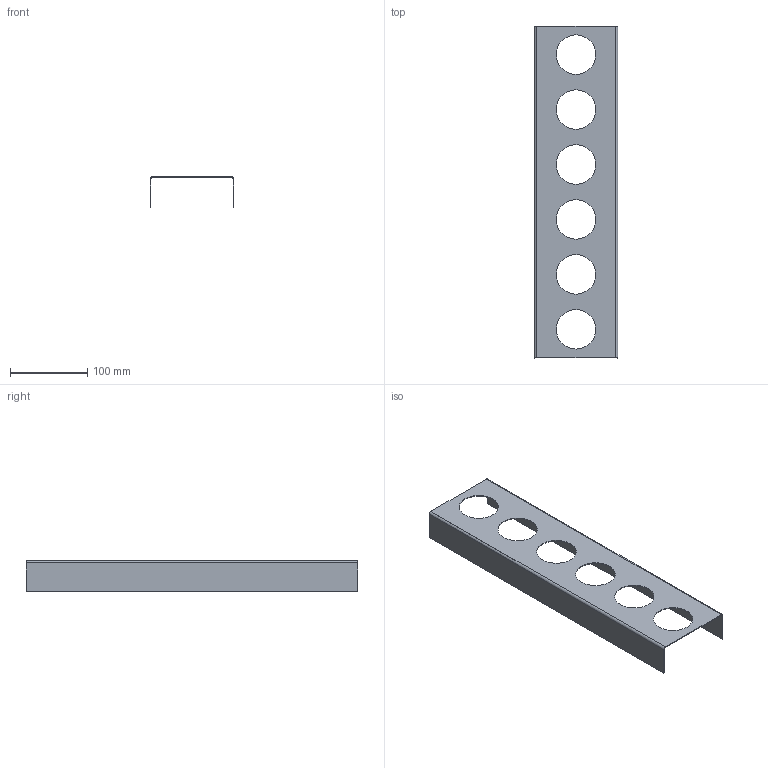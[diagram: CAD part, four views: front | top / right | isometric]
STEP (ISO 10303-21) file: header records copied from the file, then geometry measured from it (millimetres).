
FILE_DESCRIPTION (( 'STEP AP214' ), '1' );
FILE_NAME ('Gewuerzeinsatz_68312-01.STEP', '2010-10-25T13:28:36', ( 'grass' ), ( '' ), 'SwSTEP 2.0', 'SolidWorks 2010', '' );
FILE_SCHEMA (( 'AUTOMOTIVE_DESIGN' ));
Length unit declared in the file: millimetre
Products named in the file (1): Gewuerzeinsatz_68312-01
Bounding box: 108 x 429 x 40 mm (x, y, z)
Volume: 66616.4 mm3; surface area: 135419.9 mm2
Topology: 1 solids, 1 shells, 26 faces, 72 edges, 48 vertices
Faces by surface type: cylinder 16, plane 10
Entity records: 906 total; most frequent: DIRECTION 158, CARTESIAN_POINT 147, ORIENTED_EDGE 144, EDGE_CURVE 72, AXIS2_PLACEMENT_3D 59, VERTEX_POINT 48, VECTOR 40, LINE 40
